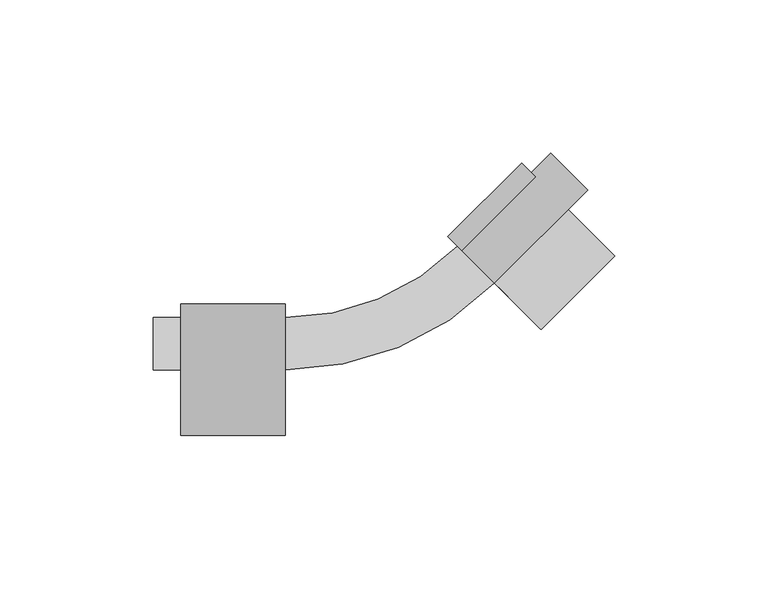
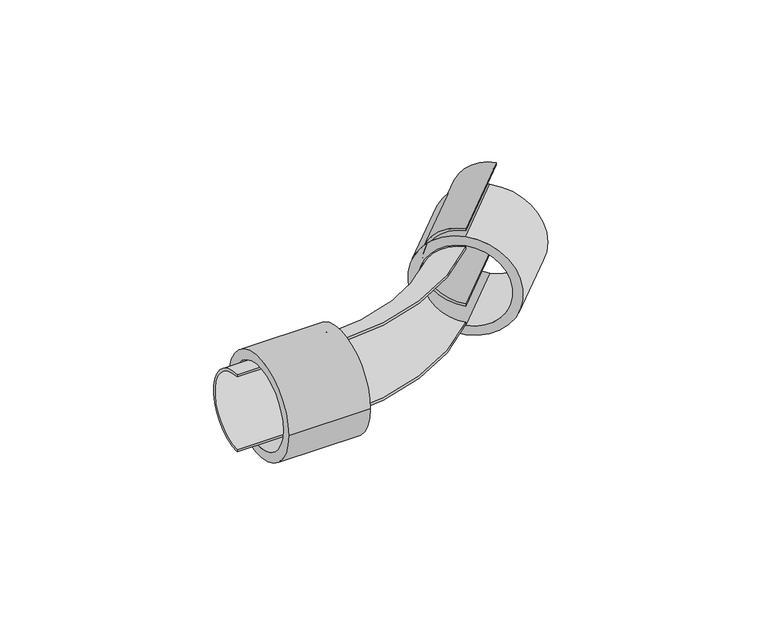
"""IFC4 building model written with IfcOpenShell, lengths in millimetres: pipe fitting geometry, REHAU_RAUTITAN_Pipe bend former sanitary : REHAU_RAUTITAN_Pipe bend former sanitary."""

from ifc_helpers import new_model, si_unit, point, frame, frame_2d, origin, origin_2d, place, context, project, spatial, polyline, circle_curve, ellipse_curve, trimmed, segment, composite_curve, outline, extrude, source, transform, mapped, element, save
from ifc_brep_helpers import plane_surface, cylinder_surface, revolved_surface, advanced_brep


def pipe_fitting_8d5a10cf(model_context):
    return source(origin(), model_context, "Body", "SolidModel", [
        advanced_brep(
        [(-40.0, 0.0, 17.0), (-40.0, 0.0, -17.0), (-40.0, 0.0, -16.0), (-40.0, 0.0, 16.0), (28.2842712, 28.2842712, 17.0), (28.2842712, 28.2842712, 16.0), (28.2842712, 28.2842712, -16.0), (28.2842712, 28.2842712, -17.0)],
        [
            (0, 1, circle_curve(frame((-40.0, 0.0, 0.0), z_axis=(-1.0, 0.0, 0.0), x_axis=(0.0, 1.0, 0.0)), 17.0)),
            (1, 2),
            (2, 3, circle_curve(frame((-40.0, 0.0, 0.0), z_axis=(1.0, 0.0, 0.0), x_axis=(0.0, 1.0, 0.0)), 16.0)),
            (3, 0),
            (4, 5),
            (5, 6, circle_curve(frame((28.2842712, 28.2842712, 0.0), z_axis=(-0.7071067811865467, -0.7071067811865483, 0.0), x_axis=(-0.7071067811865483, 0.7071067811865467, 0.0)), 16.0)),
            (6, 7),
            (7, 4, circle_curve(frame((28.2842712, 28.2842712, 0.0), z_axis=(0.7071067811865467, 0.7071067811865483, 0.0), x_axis=(-0.7071067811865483, 0.7071067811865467, 0.0)), 17.0)),
            (4, 0, circle_curve(frame((-40.0, 96.5685425, 17.0), z_axis=(0.0, 0.0, -1.0), x_axis=(0.0, -1.0, 0.0)), 96.5685425)),
            (3, 5, circle_curve(frame((-40.0, 96.5685425, 16.0), z_axis=(0.0, 0.0, 1.0), x_axis=(0.0, -1.0, 0.0)), 96.5685425)),
            (6, 2, circle_curve(frame((-40.0, 96.5685425, -16.0), z_axis=(0.0, 0.0, -1.0), x_axis=(0.0, -1.0, 0.0)), 96.5685425)),
            (1, 7, circle_curve(frame((-40.0, 96.5685425, -17.0), z_axis=(0.0, 0.0, 1.0), x_axis=(0.0, -1.0, 0.0)), 96.5685425)),
        ],
        [
            plane_surface(frame((-40.0, 0.0, 0.0), z_axis=(-1.0, 0.0, 0.0), x_axis=(0.0, 0.0, 1.0))),
            plane_surface(frame((28.2842712, 28.2842712, 0.0), z_axis=(0.7071067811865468, 0.7071067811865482, 0.0), x_axis=(0.0, 0.0, 1.0))),
            cylinder_surface(frame((-40.0, 96.5685425, 0.0), z_axis=(0.0, 0.0, 1.0), x_axis=(0.0, -1.0, 0.0)), 96.5685425),
            revolved_surface(trimmed(ellipse_curve(frame((-40.0, 0.0, 0.0), z_axis=(-1.0, 0.0, 0.0), x_axis=(0.0, 1.0, 0.0)), 17.0, 17.0), [point((-40.0, 0.0, 17.0))], [point((-40.0, 0.0, -17.0))], True, "CARTESIAN"), (-40.0, 96.5685425, 0.0), (0.0, 0.0, 1.0)),
            revolved_surface(trimmed(ellipse_curve(frame((-40.0, 0.0, 0.0), z_axis=(1.0, 0.0, 0.0), x_axis=(0.0, 1.0, 0.0)), 16.0, 16.0), [point((-40.0, 0.0, -16.0))], [point((-40.0, 0.0, 16.0))], True, "CARTESIAN"), (-40.0, 96.5685425, 0.0), (0.0, 0.0, 1.0)),
        ],
        [
            (0, [[1, 2, 3, 4]]),
            (1, [[5, 6, 7, 8]]),
            (2, [[9, -4, 10, -5]]),
            (2, [[11, -2, 12, -7]]),
            (3, [[-12, -1, -9, -8]]),
            (4, [[-10, -3, -11, -6]]),
        ],
    ),
        extrude(outline(composite_curve([segment(trimmed(circle_curve(origin_2d(), 21.5), [point((21.5, 0.0))], [point((-21.5, 0.0))], False, "CARTESIAN"), True, "CONTINUOUS"), segment(trimmed(circle_curve(origin_2d(), 21.5), [point((-21.5, 0.0))], [point((21.5, 0.0))], False, "CARTESIAN"), True, "CONTINUOUS")], self_intersect=False), holes=[composite_curve([segment(trimmed(circle_curve(origin_2d(), 17.5), [point((17.5, 0.0))], [point((-17.5, 0.0))], True, "CARTESIAN"), True, "CONTINUOUS"), segment(trimmed(circle_curve(origin_2d(), 17.5), [point((-17.5, 0.0))], [point((17.5, 0.0))], True, "CARTESIAN"), True, "CONTINUOUS")], self_intersect=False)]), frame((-74.0, 0.0, 0.0), z_axis=(1.0, 0.0, 0.0), x_axis=(0.0, 1.0, 0.0)), (0.0, 0.0, 1.0), 34.0),
        extrude(outline(composite_curve([segment(trimmed(circle_curve(frame_2d((0.0, -21.5)), 21.5), [point((0.0, -43.0))], [point((0.0, 0.0))], False, "CARTESIAN"), True, "CONTINUOUS"), segment(trimmed(circle_curve(frame_2d((0.0, -21.5)), 21.5), [point((0.0, 0.0))], [point((0.0, -43.0))], False, "CARTESIAN"), True, "CONTINUOUS")], self_intersect=False), holes=[composite_curve([segment(trimmed(circle_curve(frame_2d((0.0, -21.5)), 17.5), [point((0.0, -39.0))], [point((0.0, -4.0))], True, "CARTESIAN"), True, "CONTINUOUS"), segment(trimmed(circle_curve(frame_2d((0.0, -21.5)), 17.5), [point((0.0, -4.0))], [point((0.0, -39.0))], True, "CARTESIAN"), True, "CONTINUOUS")], self_intersect=False)]), frame((28.2842712, 28.2842712, 21.5), z_axis=(0.7071067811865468, 0.7071067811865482, 0.0), x_axis=(-0.7071067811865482, 0.7071067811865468, 0.0)), (0.0, 0.0, 1.0), 34.0),
        extrude(outline(composite_curve([segment(polyline([(0.0, 16.0), (0.0, 17.0)]), True, "CONTINUOUS"), segment(trimmed(circle_curve(origin_2d(), 17.0), [point((0.0, 17.0))], [point((0.0, -17.0))], False, "CARTESIAN"), True, "CONTINUOUS"), segment(polyline([(0.0, -17.0), (0.0, -16.0)]), True, "CONTINUOUS"), segment(trimmed(circle_curve(origin_2d(), 16.0), [point((0.0, -16.0))], [point((0.0, 16.0))], True, "CARTESIAN"), True, "CONTINUOUS")], self_intersect=False)), frame((-83.0, 0.0, 0.0), z_axis=(1.0, 0.0, 0.0), x_axis=(0.0, 1.0, 0.0)), (0.0, 0.0, 1.0), 43.0),
        extrude(outline(composite_curve([segment(polyline([(0.0, 0.0), (0.0, -1.0)]), True, "CONTINUOUS"), segment(trimmed(circle_curve(frame_2d((0.0, 16.0)), 17.0), [point((0.0, -1.0))], [point((0.0, 33.0))], False, "CARTESIAN"), True, "CONTINUOUS"), segment(polyline([(0.0, 33.0), (0.0, 32.0)]), True, "CONTINUOUS"), segment(trimmed(circle_curve(frame_2d((0.0, 16.0)), 16.0), [point((0.0, 32.0))], [point((0.0, 0.0))], True, "CARTESIAN"), True, "CONTINUOUS")], self_intersect=False)), frame((28.2842712, 28.2842712, 24.0015807), z_axis=(0.7071067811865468, 0.7071067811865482, 0.0), x_axis=(0.7071067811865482, -0.7071067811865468, 0.0)), (0.0, 0.0, 1.0), 43.0),
    ])


if __name__ == "__main__":
    model = new_model("IFC4")
    model_context = context("Model", 3, world=origin())
    ifc_project = project(units=[si_unit("LENGTHUNIT", "METRE", prefix="MILLI")], contexts=[model_context])
    site = spatial("IfcSite", under=ifc_project)
    building = spatial("IfcBuilding", under=site)
    placement = place(None, origin())
    pipe_fitting_shape = pipe_fitting_8d5a10cf(model_context)
    element("IfcPipeFitting", 1, ObjectType="REHAU_RAUTITAN_Pipe bend former sanitary : REHAU_RAUTITAN_Pipe bend former sanitary", at=placement, inside=building, context=model_context, shape_type="MappedRepresentation", body=[
        mapped(pipe_fitting_shape, transform((0.0, 0.0, 0.0), x_axis=(1.0, 0.0, 0.0), y_axis=(0.0, 1.0, 0.0), z_axis=(0.0, 0.0, 1.0))),
    ])
    save(model, "model.ifc")
